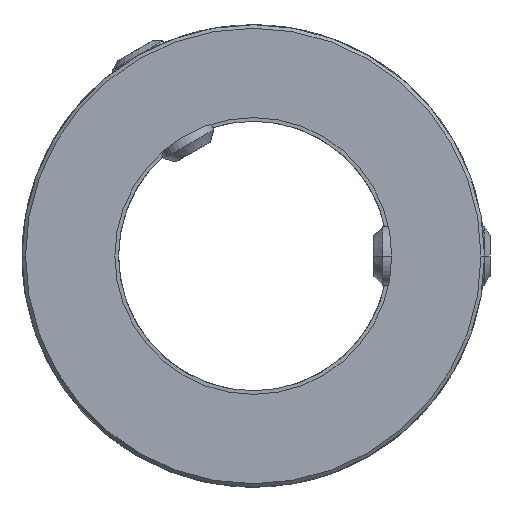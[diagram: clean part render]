
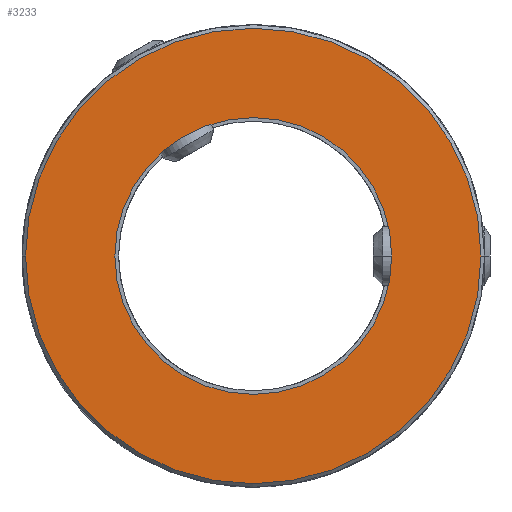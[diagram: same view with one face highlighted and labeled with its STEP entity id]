
A CAD part, front view. The second image highlights one B-rep face of the part: STEP entity #3233.
In plain terms, the highlighted planar face has unit normal (0, -1, 0).
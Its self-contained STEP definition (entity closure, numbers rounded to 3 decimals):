
#1=CARTESIAN_POINT('',(0.,-75.,
0.));
#2=DIRECTION('',(0.,-1.,0.));
#3=DIRECTION('',(-1.,0.,0.));
#4=AXIS2_PLACEMENT_3D('',#1,#2,#3);
#6=CARTESIAN_POINT('',(0.,-75.,
0.));
#7=DIRECTION('',(0.,-1.,0.));
#8=DIRECTION('',(1.,0.,0.));
#9=AXIS2_PLACEMENT_3D('',#6,#7,#8);
#11=CARTESIAN_POINT('',(0.,-75.,0.));
#12=DIRECTION('',(0.,1.,0.));
#13=DIRECTION('',(1.,0.,0.));
#14=AXIS2_PLACEMENT_3D('',#11,#12,#13);
#16=CARTESIAN_POINT('',(0.,-75.,0.));
#17=DIRECTION('',(0.,1.,0.));
#18=DIRECTION('',(-1.,0.,0.));
#19=AXIS2_PLACEMENT_3D('',#16,#17,#18);
#2979=CARTESIAN_POINT('',(19.,-75.,0.));
#2980=CARTESIAN_POINT('',(-19.,-75.,0.));
#2981=VERTEX_POINT('',#2979);
#2982=VERTEX_POINT('',#2980);
#2999=CARTESIAN_POINT('',(-31.27,-75.,0.));
#3000=CARTESIAN_POINT('',(31.27,-75.,0.));
#3001=VERTEX_POINT('',#2999);
#3002=VERTEX_POINT('',#3000);
#3216=CARTESIAN_POINT('',(0.,-75.,0.));
#3217=DIRECTION('',(0.,1.,0.));
#3218=DIRECTION('',(1.,0.,0.));
#3219=AXIS2_PLACEMENT_3D('',#3216,#3217,#3218);
#3220=PLANE('',#3219);
#3222=ORIENTED_EDGE('',*,*,#3221,.F.);
#3224=ORIENTED_EDGE('',*,*,#3223,.F.);
#3225=EDGE_LOOP('',(#3222,#3224));
#3226=FACE_OUTER_BOUND('',#3225,.F.);
#3228=ORIENTED_EDGE('',*,*,#3227,.F.);
#3230=ORIENTED_EDGE('',*,*,#3229,.F.);
#3231=EDGE_LOOP('',(#3228,#3230));
#3232=FACE_BOUND('',#3231,.F.);
#3233=ADVANCED_FACE('',(#3226,#3232),#3220,.F.);
#5=CIRCLE('',#4,31.27);
#10=CIRCLE('',#9,31.27);
#15=CIRCLE('',#14,19.);
#20=CIRCLE('',#19,19.);
#3221=EDGE_CURVE('',#3001,#3002,#5,.T.);
#3223=EDGE_CURVE('',#3002,#3001,#10,.T.);
#3227=EDGE_CURVE('',#2981,#2982,#15,.T.);
#3229=EDGE_CURVE('',#2982,#2981,#20,.T.);
